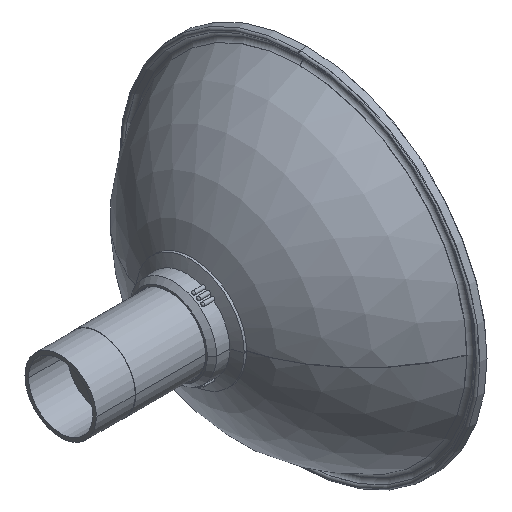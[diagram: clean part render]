
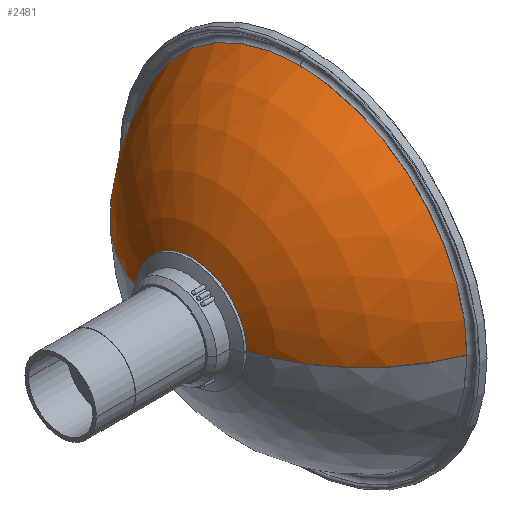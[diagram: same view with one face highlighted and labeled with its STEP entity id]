
A CAD part, isometric view. The second image highlights one B-rep face of the part: STEP entity #2481.
In plain terms, the highlighted spherical face has radius 248.507 mm.
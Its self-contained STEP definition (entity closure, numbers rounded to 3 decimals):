
#1910=CARTESIAN_POINT('',(0.,-45.579,0.));
#1911=DIRECTION('',(0.,0.,-1.));
#1912=DIRECTION('',(0.241,0.97,0.));
#1913=AXIS2_PLACEMENT_3D('',#1910,#1911,#1912);
#1934=CARTESIAN_POINT('',(0.,-45.579,0.));
#1935=DIRECTION('',(0.,0.,1.));
#1936=DIRECTION('',(-0.241,0.97,0.));
#1937=AXIS2_PLACEMENT_3D('',#1934,#1935,#1936);
#1966=CARTESIAN_POINT('',(0.,42.928,0.));
#1967=DIRECTION('',(0.,1.,0.));
#1968=DIRECTION('',(-1.,0.,0.));
#1969=AXIS2_PLACEMENT_3D('',#1966,#1967,#1968);
#1974=CARTESIAN_POINT('',(0.,195.576,0.));
#1975=DIRECTION('',(0.,-1.,0.));
#1976=DIRECTION('',(0.,0.,1.));
#1977=AXIS2_PLACEMENT_3D('',#1974,#1975,#1976);
#1982=CARTESIAN_POINT('',(0.,195.576,0.));
#1983=DIRECTION('',(0.,-1.,0.));
#1984=DIRECTION('',(1.,0.,0.));
#1985=AXIS2_PLACEMENT_3D('',#1982,#1983,#1984);
#1990=CARTESIAN_POINT('',(0.,42.928,0.));
#1991=DIRECTION('',(0.,1.,0.));
#1992=DIRECTION('',(0.,0.,1.));
#1993=AXIS2_PLACEMENT_3D('',#1990,#1991,#1992);
#2296=CARTESIAN_POINT('',(0.,42.928,
232.212));
#2297=VERTEX_POINT('',#2296);
#2314=CARTESIAN_POINT('',(-60.,195.576,0.));
#2315=CARTESIAN_POINT('',(-232.212,42.928,
0.));
#2316=VERTEX_POINT('',#2314);
#2317=VERTEX_POINT('',#2315);
#2318=CARTESIAN_POINT('',(60.,195.576,0.));
#2319=CARTESIAN_POINT('',(232.212,42.928,
0.));
#2320=VERTEX_POINT('',#2318);
#2321=VERTEX_POINT('',#2319);
#2326=CARTESIAN_POINT('',(0.,195.576,60.));
#2328=VERTEX_POINT('',#2326);
#2467=CARTESIAN_POINT('',(0.,-45.579,0.));
#2468=DIRECTION('',(0.,-1.,0.));
#2469=DIRECTION('',(1.,0.,0.));
#2470=AXIS2_PLACEMENT_3D('',#2467,#2468,#2469);
#2471=SPHERICAL_SURFACE('',#2470,248.507);
#2472=ORIENTED_EDGE('',*,*,#2455,.F.);
#2473=ORIENTED_EDGE('',*,*,#2445,.F.);
#2474=ORIENTED_EDGE('',*,*,#2406,.F.);
#2475=ORIENTED_EDGE('',*,*,#2425,.F.);
#2476=ORIENTED_EDGE('',*,*,#2441,.T.);
#2478=ORIENTED_EDGE('',*,*,#2477,.F.);
#2479=EDGE_LOOP('',(#2472,#2473,#2474,#2475,#2476,#2478));
#2480=FACE_OUTER_BOUND('',#2479,.F.);
#1914=CIRCLE('',#1913,248.507);
#1938=CIRCLE('',#1937,248.507);
#1970=CIRCLE('',#1969,232.212);
#1978=CIRCLE('',#1977,60.);
#1986=CIRCLE('',#1985,60.);
#1994=CIRCLE('',#1993,232.212);
#2406=EDGE_CURVE('',#2328,#2316,#1978,.T.);
#2425=EDGE_CURVE('',#2320,#2328,#1986,.T.);
#2441=EDGE_CURVE('',#2320,#2321,#1914,.T.);
#2445=EDGE_CURVE('',#2316,#2317,#1938,.T.);
#2455=EDGE_CURVE('',#2317,#2297,#1970,.T.);
#2477=EDGE_CURVE('',#2297,#2321,#1994,.T.);
#2481=ADVANCED_FACE('',(#2480),#2471,.T.);
